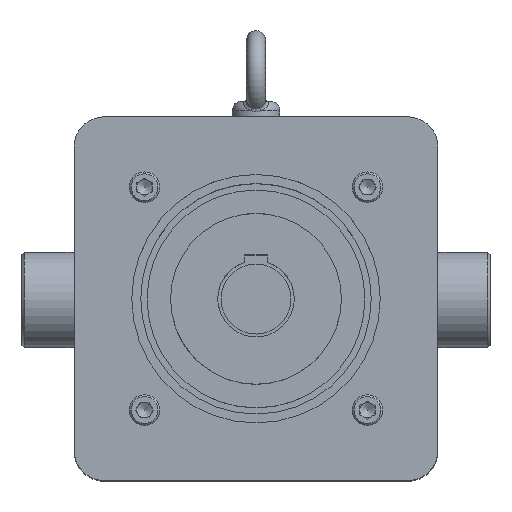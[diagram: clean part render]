
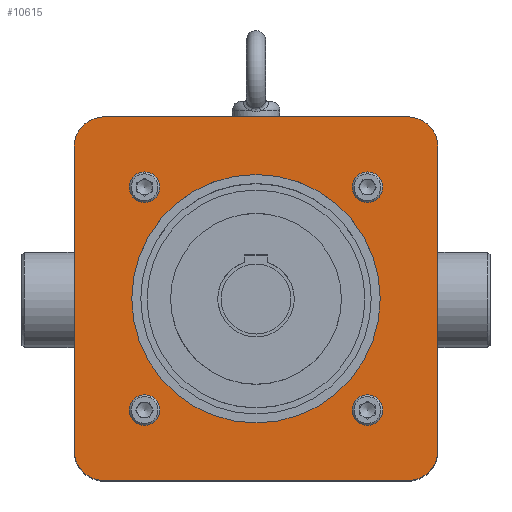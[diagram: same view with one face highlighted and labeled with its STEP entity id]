
A CAD part, top view. The second image highlights one B-rep face of the part: STEP entity #10615.
In plain terms, the highlighted planar face has unit normal (0, 0, 1).
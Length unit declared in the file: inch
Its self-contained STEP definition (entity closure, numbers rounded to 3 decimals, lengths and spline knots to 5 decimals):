
#150 = ORIENTED_EDGE ( 'NONE', *, *, #22324, .T. ) ;
#506 = LINE ( 'NONE', #16111, #5878 ) ;
#729 = EDGE_CURVE ( 'NONE', #7856, #7856, #16403, .T. ) ;
#822 = CARTESIAN_POINT ( 'NONE',  ( 2.09937, 2.29672, 15.6317 ) ) ;
#1421 = EDGE_CURVE ( 'NONE', #13230, #8763, #5420, .T. ) ;
#1451 = EDGE_CURVE ( 'NONE', #9639, #9639, #18529, .T. ) ;
#1527 = DIRECTION ( 'NONE',  ( 1., 0., 0. ) ) ;
#1586 = ORIENTED_EDGE ( 'NONE', *, *, #5138, .F. ) ;
#1607 = ORIENTED_EDGE ( 'NONE', *, *, #22139, .F. ) ;
#1672 = EDGE_LOOP ( 'NONE', ( #3825 ) ) ;
#1762 = DIRECTION ( 'NONE',  ( 0., 0., -1. ) ) ;
#2730 = VECTOR ( 'NONE', #15382, 39.37008 ) ;
#2880 = FACE_BOUND ( 'NONE', #4994, .T. ) ;
#2974 = CARTESIAN_POINT ( 'NONE',  ( -3.125, 3.125, 15.6317 ) ) ;
#3087 = CIRCLE ( 'NONE', #7959, 0.625 ) ;
#3283 = CARTESIAN_POINT ( 'NONE',  ( 3.125, 3.125, 15.6317 ) ) ;
#3450 = CARTESIAN_POINT ( 'NONE',  ( 2.09937, -2.29672, 15.6317 ) ) ;
#3545 = AXIS2_PLACEMENT_3D ( 'NONE', #14075, #1762, #15826 ) ;
#3645 = CARTESIAN_POINT ( 'NONE',  ( 3.125, -3.75, 15.6317 ) ) ;
#3654 = DIRECTION ( 'NONE',  ( 0., 0., -1. ) ) ;
#3825 = ORIENTED_EDGE ( 'NONE', *, *, #729, .F. ) ;
#4134 = CARTESIAN_POINT ( 'NONE',  ( -3.75, 3.125, 15.6317 ) ) ;
#4140 = EDGE_LOOP ( 'NONE', ( #11885 ) ) ;
#4167 = EDGE_CURVE ( 'NONE', #13681, #17532, #18460, .T. ) ;
#4355 = CARTESIAN_POINT ( 'NONE',  ( -2.29672, 2.29672, 15.6317 ) ) ;
#4501 = DIRECTION ( 'NONE',  ( -1., 0., 0. ) ) ;
#4706 = EDGE_CURVE ( 'NONE', #12668, #12668, #16599, .T. ) ;
#4940 = ORIENTED_EDGE ( 'NONE', *, *, #20396, .F. ) ;
#4994 = EDGE_LOOP ( 'NONE', ( #10494 ) ) ;
#5138 = EDGE_CURVE ( 'NONE', #17532, #15823, #10101, .T. ) ;
#5233 = CARTESIAN_POINT ( 'NONE',  ( 3.125, -3.75, 15.6317 ) ) ;
#5420 = CIRCLE ( 'NONE', #6917, 0.625 ) ;
#5429 = CARTESIAN_POINT ( 'NONE',  ( 3.75, 3.125, 15.6317 ) ) ;
#5515 = DIRECTION ( 'NONE',  ( 0., 1., 0. ) ) ;
#5878 = VECTOR ( 'NONE', #19759, 39.37008 ) ;
#6594 = CARTESIAN_POINT ( 'NONE',  ( -3.125, 3.75, 15.6317 ) ) ;
#6855 = VERTEX_POINT ( 'NONE', #3450 ) ;
#6917 = AXIS2_PLACEMENT_3D ( 'NONE', #3283, #19475, #17820 ) ;
#6918 = CARTESIAN_POINT ( 'NONE',  ( -3.75, -3.125, 15.6317 ) ) ;
#7170 = CARTESIAN_POINT ( 'NONE',  ( 3.75, -3.125, 15.6317 ) ) ;
#7293 = CIRCLE ( 'NONE', #20410, 0.19735 ) ;
#7334 = DIRECTION ( 'NONE',  ( 0., 0., -1. ) ) ;
#7608 = DIRECTION ( 'NONE',  ( -1., 0., 0. ) ) ;
#7627 = AXIS2_PLACEMENT_3D ( 'NONE', #2974, #12123, #4501 ) ;
#7856 = VERTEX_POINT ( 'NONE', #11398 ) ;
#7959 = AXIS2_PLACEMENT_3D ( 'NONE', #14167, #21337, #11841 ) ;
#7972 = EDGE_CURVE ( 'NONE', #22279, #21315, #3087, .T. ) ;
#8174 = AXIS2_PLACEMENT_3D ( 'NONE', #12685, #9162, #1527 ) ;
#8273 = FACE_BOUND ( 'NONE', #4140, .T. ) ;
#8763 = VERTEX_POINT ( 'NONE', #5429 ) ;
#8960 = VERTEX_POINT ( 'NONE', #15141 ) ;
#9162 = DIRECTION ( 'NONE',  ( 0., 0., 1. ) ) ;
#9170 = CARTESIAN_POINT ( 'NONE',  ( 2.29672, -2.29672, 15.6317 ) ) ;
#9356 = EDGE_LOOP ( 'NONE', ( #23019, #16446, #13898, #17066, #12465, #1607, #4940, #1586 ) ) ;
#9513 = CIRCLE ( 'NONE', #7627, 0.625 ) ;
#9639 = VERTEX_POINT ( 'NONE', #822 ) ;
#9750 = AXIS2_PLACEMENT_3D ( 'NONE', #9170, #16307, #14552 ) ;
#9914 = CARTESIAN_POINT ( 'NONE',  ( -2.49407, 2.29672, 15.6317 ) ) ;
#10101 = LINE ( 'NONE', #17237, #19624 ) ;
#10494 = ORIENTED_EDGE ( 'NONE', *, *, #17921, .F. ) ;
#10615 = ADVANCED_FACE ( 'NONE', ( #2880, #17180, #8273, #10753, #12504, #10866 ), #18112, .F. ) ;
#10730 = CARTESIAN_POINT ( 'NONE',  ( 3.125, 3.75, 15.6317 ) ) ;
#10753 = FACE_BOUND ( 'NONE', #11912, .T. ) ;
#10833 = DIRECTION ( 'NONE',  ( -1., 0., 0. ) ) ;
#10866 = FACE_OUTER_BOUND ( 'NONE', #9356, .T. ) ;
#11142 = CARTESIAN_POINT ( 'NONE',  ( -3.125, -3.75, 15.6317 ) ) ;
#11398 = CARTESIAN_POINT ( 'NONE',  ( 2.56005, 0., 15.6317 ) ) ;
#11841 = DIRECTION ( 'NONE',  ( -1., 0., 0. ) ) ;
#11885 = ORIENTED_EDGE ( 'NONE', *, *, #4706, .T. ) ;
#11912 = EDGE_LOOP ( 'NONE', ( #150 ) ) ;
#12123 = DIRECTION ( 'NONE',  ( 0., 0., -1. ) ) ;
#12465 = ORIENTED_EDGE ( 'NONE', *, *, #1421, .F. ) ;
#12504 = FACE_BOUND ( 'NONE', #1672, .T. ) ;
#12668 = VERTEX_POINT ( 'NONE', #17694 ) ;
#12685 = CARTESIAN_POINT ( 'NONE',  ( 0., 0., 15.6317 ) ) ;
#12788 = CARTESIAN_POINT ( 'NONE',  ( -3.125, -3.125, 15.6317 ) ) ;
#12811 = LINE ( 'NONE', #3645, #14208 ) ;
#13230 = VERTEX_POINT ( 'NONE', #10730 ) ;
#13681 = VERTEX_POINT ( 'NONE', #11142 ) ;
#13898 = ORIENTED_EDGE ( 'NONE', *, *, #7972, .F. ) ;
#13972 = AXIS2_PLACEMENT_3D ( 'NONE', #12788, #16747, #7608 ) ;
#14075 = CARTESIAN_POINT ( 'NONE',  ( 2.29672, 2.29672, 15.6317 ) ) ;
#14134 = CARTESIAN_POINT ( 'NONE',  ( -3.125, -3.125, 15.6317 ) ) ;
#14167 = CARTESIAN_POINT ( 'NONE',  ( 3.125, -3.125, 15.6317 ) ) ;
#14208 = VECTOR ( 'NONE', #21736, 39.37008 ) ;
#14552 = DIRECTION ( 'NONE',  ( -1., 0., 0. ) ) ;
#15141 = CARTESIAN_POINT ( 'NONE',  ( -3.125, 3.75, 15.6317 ) ) ;
#15382 = DIRECTION ( 'NONE',  ( 1., 0., 0. ) ) ;
#15823 = VERTEX_POINT ( 'NONE', #4134 ) ;
#15826 = DIRECTION ( 'NONE',  ( -1., 0., 0. ) ) ;
#16111 = CARTESIAN_POINT ( 'NONE',  ( 3.75, 3.125, 15.6317 ) ) ;
#16122 = DIRECTION ( 'NONE',  ( -1., 0., 0. ) ) ;
#16307 = DIRECTION ( 'NONE',  ( 0., 0., -1. ) ) ;
#16403 = CIRCLE ( 'NONE', #8174, 2.56005 ) ;
#16446 = ORIENTED_EDGE ( 'NONE', *, *, #23168, .F. ) ;
#16599 = CIRCLE ( 'NONE', #19607, 0.19735 ) ;
#16747 = DIRECTION ( 'NONE',  ( 0., 0., -1. ) ) ;
#16839 = EDGE_CURVE ( 'NONE', #8763, #22279, #506, .T. ) ;
#17066 = ORIENTED_EDGE ( 'NONE', *, *, #16839, .F. ) ;
#17180 = FACE_BOUND ( 'NONE', #22129, .T. ) ;
#17237 = CARTESIAN_POINT ( 'NONE',  ( -3.75, -3.125, 15.6317 ) ) ;
#17481 = LINE ( 'NONE', #6594, #2730 ) ;
#17532 = VERTEX_POINT ( 'NONE', #6918 ) ;
#17562 = ORIENTED_EDGE ( 'NONE', *, *, #1451, .T. ) ;
#17694 = CARTESIAN_POINT ( 'NONE',  ( -2.49407, -2.29672, 15.6317 ) ) ;
#17820 = DIRECTION ( 'NONE',  ( -1., 0., 0. ) ) ;
#17921 = EDGE_CURVE ( 'NONE', #22238, #22238, #7293, .T. ) ;
#18112 = PLANE ( 'NONE',  #19105 ) ;
#18441 = DIRECTION ( 'NONE',  ( -1., 0., 0. ) ) ;
#18460 = CIRCLE ( 'NONE', #13972, 0.625 ) ;
#18529 = CIRCLE ( 'NONE', #3545, 0.19735 ) ;
#19105 = AXIS2_PLACEMENT_3D ( 'NONE', #14134, #7334, #16122 ) ;
#19475 = DIRECTION ( 'NONE',  ( 0., 0., -1. ) ) ;
#19607 = AXIS2_PLACEMENT_3D ( 'NONE', #21626, #3654, #10833 ) ;
#19624 = VECTOR ( 'NONE', #5515, 39.37008 ) ;
#19759 = DIRECTION ( 'NONE',  ( 0., -1., 0. ) ) ;
#20215 = DIRECTION ( 'NONE',  ( 0., 0., 1. ) ) ;
#20396 = EDGE_CURVE ( 'NONE', #15823, #8960, #9513, .T. ) ;
#20410 = AXIS2_PLACEMENT_3D ( 'NONE', #4355, #20215, #18441 ) ;
#21315 = VERTEX_POINT ( 'NONE', #5233 ) ;
#21337 = DIRECTION ( 'NONE',  ( 0., 0., -1. ) ) ;
#21626 = CARTESIAN_POINT ( 'NONE',  ( -2.29672, -2.29672, 15.6317 ) ) ;
#21736 = DIRECTION ( 'NONE',  ( -1., 0., 0. ) ) ;
#22129 = EDGE_LOOP ( 'NONE', ( #17562 ) ) ;
#22139 = EDGE_CURVE ( 'NONE', #8960, #13230, #17481, .T. ) ;
#22238 = VERTEX_POINT ( 'NONE', #9914 ) ;
#22279 = VERTEX_POINT ( 'NONE', #7170 ) ;
#22324 = EDGE_CURVE ( 'NONE', #6855, #6855, #22457, .T. ) ;
#22457 = CIRCLE ( 'NONE', #9750, 0.19735 ) ;
#23019 = ORIENTED_EDGE ( 'NONE', *, *, #4167, .F. ) ;
#23168 = EDGE_CURVE ( 'NONE', #21315, #13681, #12811, .T. ) ;
